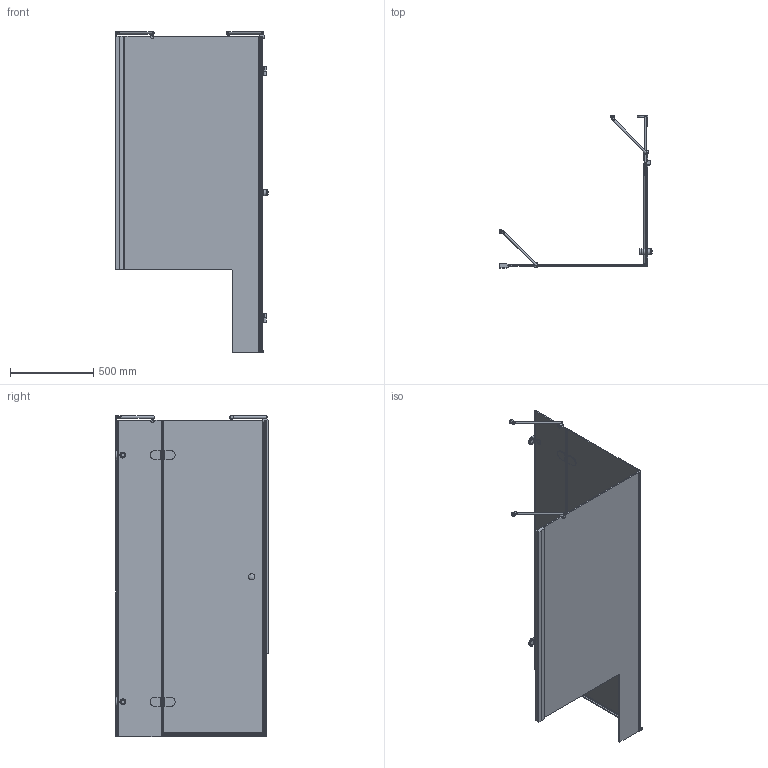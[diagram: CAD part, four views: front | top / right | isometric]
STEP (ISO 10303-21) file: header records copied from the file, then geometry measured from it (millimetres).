
FILE_DESCRIPTION(/* description */ (''),/* implementation_level */ '2;1');
FILE_NAME(/* name */ 'D:\4\LUX SQUARE GK-003V1P\LUX SQUARE GK-003V1P правая модель\LUX SQUARE GK-003V1P ПРАВАЯ-3D.stp',/* time_stamp */ '2017-05-22T15:21:32+03:00',/* author */ ('ChechurovS'),/* organization */ (''),/* preprocessor_version */ 'ST-DEVELOPER v15.2',/* originating_system */ 'Autodesk Inventor 2014',/* authorisation */ '');
FILE_SCHEMA (('CONFIG_CONTROL_DESIGN'));
Length unit declared in the file: millimetre
Products named in the file (1): LUX SQUARE GK-003V1P ПРАВАЯ-
3D
Bounding box: 917.14 x 913.8 x 1931.5 mm (x, y, z)
Volume: 23641169.7 mm3; surface area: 6425982 mm2
Topology: 7 solids, 7 shells, 565 faces, 1546 edges, 1015 vertices
Faces by surface type: plane 368, cylinder 156, torus 19, bspline 10, sphere 10, cone 2
Full cylindrical faces by diameter (mm): 15 x2, 20 x4, 26 x2, 35 x2, 38 x4, 40 x2
Entity records: 19010 total; most frequent: CARTESIAN_POINT 4077, ORIENTED_EDGE 2996, DIRECTION 2936, EDGE_CURVE 1498, LINE 1066, VECTOR 1066, VERTEX_POINT 997, AXIS2_PLACEMENT_3D 935
